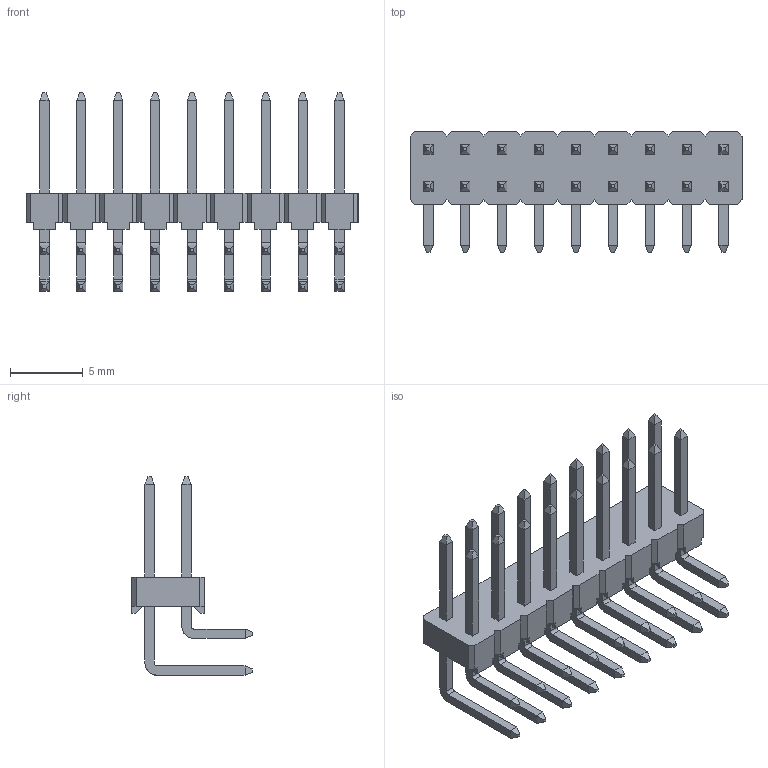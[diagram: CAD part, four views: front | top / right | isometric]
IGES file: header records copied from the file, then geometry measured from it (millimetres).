
Global section: file name: N:\GOLF_VI_2_54mm_UGII\961XXX-5X04-XX (TS-2182)\961218-5804-XX.igs; native system: NX V3.0; preprocessor: UGS NX IGES V4.0; date: 20070618.133648; units: millimetre
Bounding box: 22.86 x 8.3 x 13.66 mm (x, y, z)
Surface area: 1061.6 mm2 (no closed solid volume)
Topology: 0 solids, 0 shells, 546 faces, 2797 edges, 2797 vertices
Faces by surface type: bspline 546
